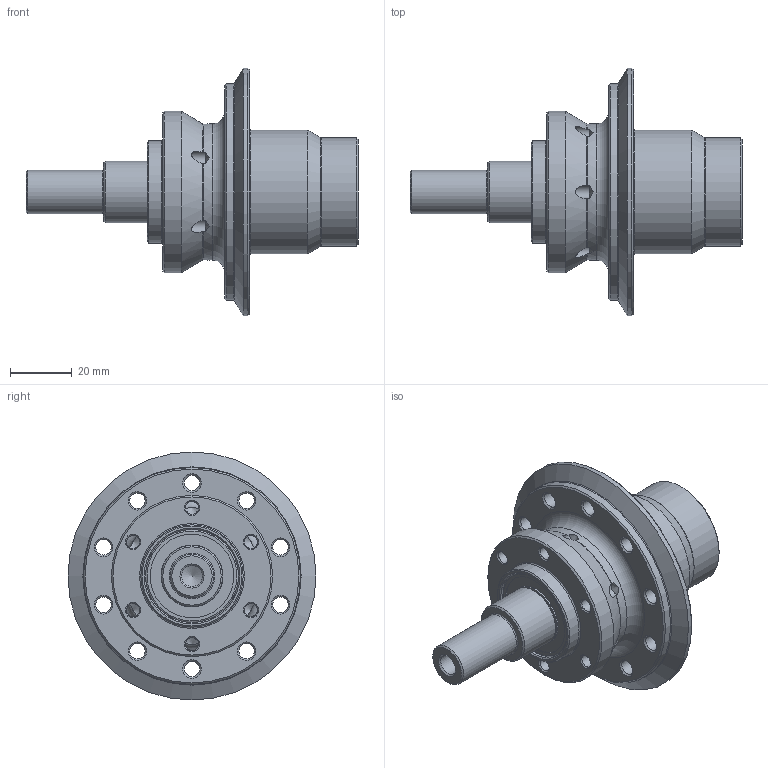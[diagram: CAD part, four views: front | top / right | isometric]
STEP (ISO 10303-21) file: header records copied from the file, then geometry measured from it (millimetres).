
FILE_DESCRIPTION (( 'STEP AP214' ), '1' );
FILE_NAME ('Alligt-disc-axle-and-hub.STEP', '2024-01-09T08:58:29', ( '' ), ( '' ), 'SwSTEP 2.0', 'SolidWorks 2021', '' );
FILE_SCHEMA (( 'AUTOMOTIVE_DESIGN' ));
Length unit declared in the file: millimetre
Products named in the file (5): 6903-2RS1; Alligt-disc-axle; Alligt-disc-axle-and-hub; 6001-2RS1_SKF - 6001 - 10,SI,NC,10_68; Alligt-disc-hub
Assembly tree (4 placements, depth 2):
  Alligt-disc-axle-and-hub
    Alligt-disc-axle
    6001-2RS1_SKF - 6001 - 10,SI,NC,10_68
    6903-2RS1
    Alligt-disc-hub
Bounding box: 107.1 x 80 x 80 mm (x, y, z)
Volume: 88193.6 mm3; surface area: 37433.2 mm2
Topology: 4 solids, 4 shells, 158 faces, 370 edges, 228 vertices
Faces by surface type: cone 54, cylinder 47, torus 29, plane 28
Full cylindrical faces by diameter (mm): 4.2 x6, 5 x11, 6.8 x1, 12 x2, 14 x1, 16 x1, 16.8 x2, 17 x2, 19.8 x1, 20 x2, 23.2 x2, 25 x1, 26 x1, 27 x2, 28 x2, 30 x2, 33 x2, 35 x1, 40 x1, 44 x1, 52 x1, 70 x1, 80 x1
Entity records: 4326 total; most frequent: CARTESIAN_POINT 827, DIRECTION 698, ORIENTED_EDGE 440, AXIS2_PLACEMENT_3D 343, EDGE_LOOP 322, FACE_OUTER_BOUND 228, EDGE_CURVE 220, VERTEX_POINT 196
